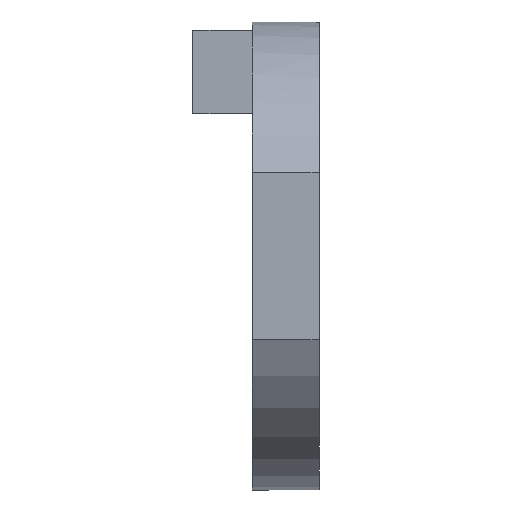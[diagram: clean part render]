
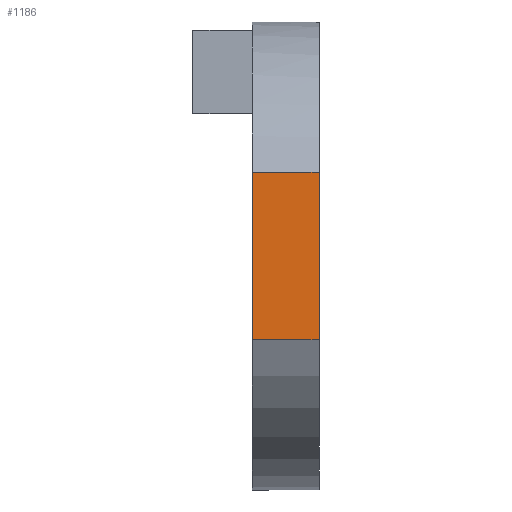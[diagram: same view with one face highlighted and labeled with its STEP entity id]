
A CAD part, left-side view. The second image highlights one B-rep face of the part: STEP entity #1186.
In plain terms, the highlighted planar face has unit normal (-1, 0, 0).
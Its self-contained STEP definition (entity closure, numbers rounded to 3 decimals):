
#45 = PLANE('',#46);
#46 = AXIS2_PLACEMENT_3D('',#47,#48,#49);
#47 = CARTESIAN_POINT('',(20.,-71.,43.));
#48 = DIRECTION('',(0.,-1.,0.));
#49 = DIRECTION('',(1.,0.,0.));
#72 = PLANE('',#73);
#73 = AXIS2_PLACEMENT_3D('',#74,#75,#76);
#74 = CARTESIAN_POINT('',(-6.,-75.,38.));
#75 = DIRECTION('',(0.,0.,1.));
#76 = DIRECTION('',(1.,0.,0.));
#100 = PLANE('',#101);
#101 = AXIS2_PLACEMENT_3D('',#102,#103,#104);
#102 = CARTESIAN_POINT('',(20.,-75.,43.));
#103 = DIRECTION('',(0.,-1.,0.));
#104 = DIRECTION('',(1.,0.,0.));
#144 = VERTEX_POINT('',#145);
#145 = CARTESIAN_POINT('',(-6.,-71.,48.));
#161 = PLANE('',#162);
#162 = AXIS2_PLACEMENT_3D('',#163,#164,#165);
#163 = CARTESIAN_POINT('',(-6.,-75.,48.));
#164 = DIRECTION('',(0.,0.,1.));
#165 = DIRECTION('',(1.,0.,0.));
#173 = EDGE_CURVE('',#174,#144,#176,.T.);
#174 = VERTEX_POINT('',#175);
#175 = CARTESIAN_POINT('',(-6.,-71.,38.));
#176 = SURFACE_CURVE('',#177,(#181,#188),.PCURVE_S1.);
#177 = LINE('',#178,#179);
#178 = CARTESIAN_POINT('',(-6.,-71.,38.));
#179 = VECTOR('',#180,1.);
#180 = DIRECTION('',(0.,0.,1.));
#181 = PCURVE('',#45,#182);
#182 = DEFINITIONAL_REPRESENTATION('',(#183),#187);
#183 = LINE('',#184,#185);
#184 = CARTESIAN_POINT('',(-26.,-5.));
#185 = VECTOR('',#186,1.);
#186 = DIRECTION('',(0.,1.));
#187 = ( GEOMETRIC_REPRESENTATION_CONTEXT(2) 
PARAMETRIC_REPRESENTATION_CONTEXT() REPRESENTATION_CONTEXT('2D SPACE',''
  ) );
#188 = PCURVE('',#189,#194);
#189 = PLANE('',#190);
#190 = AXIS2_PLACEMENT_3D('',#191,#192,#193);
#191 = CARTESIAN_POINT('',(-6.,-75.,38.));
#192 = DIRECTION('',(1.,0.,0.));
#193 = DIRECTION('',(0.,0.,1.));
#194 = DEFINITIONAL_REPRESENTATION('',(#195),#199);
#195 = LINE('',#196,#197);
#196 = CARTESIAN_POINT('',(0.,-4.));
#197 = VECTOR('',#198,1.);
#198 = DIRECTION('',(1.,0.));
#199 = ( GEOMETRIC_REPRESENTATION_CONTEXT(2) 
PARAMETRIC_REPRESENTATION_CONTEXT() REPRESENTATION_CONTEXT('2D SPACE',''
  ) );
#784 = VERTEX_POINT('',#785);
#785 = CARTESIAN_POINT('',(-6.,-75.,48.));
#806 = EDGE_CURVE('',#807,#784,#809,.T.);
#807 = VERTEX_POINT('',#808);
#808 = CARTESIAN_POINT('',(-6.,-75.,38.));
#809 = SURFACE_CURVE('',#810,(#814,#821),.PCURVE_S1.);
#810 = LINE('',#811,#812);
#811 = CARTESIAN_POINT('',(-6.,-75.,38.));
#812 = VECTOR('',#813,1.);
#813 = DIRECTION('',(0.,0.,1.));
#814 = PCURVE('',#100,#815);
#815 = DEFINITIONAL_REPRESENTATION('',(#816),#820);
#816 = LINE('',#817,#818);
#817 = CARTESIAN_POINT('',(-26.,-5.));
#818 = VECTOR('',#819,1.);
#819 = DIRECTION('',(0.,1.));
#820 = ( GEOMETRIC_REPRESENTATION_CONTEXT(2) 
PARAMETRIC_REPRESENTATION_CONTEXT() REPRESENTATION_CONTEXT('2D SPACE',''
  ) );
#821 = PCURVE('',#189,#822);
#822 = DEFINITIONAL_REPRESENTATION('',(#823),#827);
#823 = LINE('',#824,#825);
#824 = CARTESIAN_POINT('',(0.,0.));
#825 = VECTOR('',#826,1.);
#826 = DIRECTION('',(1.,0.));
#827 = ( GEOMETRIC_REPRESENTATION_CONTEXT(2) 
PARAMETRIC_REPRESENTATION_CONTEXT() REPRESENTATION_CONTEXT('2D SPACE',''
  ) );
#1119 = EDGE_CURVE('',#807,#174,#1120,.T.);
#1120 = SURFACE_CURVE('',#1121,(#1125,#1132),.PCURVE_S1.);
#1121 = LINE('',#1122,#1123);
#1122 = CARTESIAN_POINT('',(-6.,-75.,38.));
#1123 = VECTOR('',#1124,1.);
#1124 = DIRECTION('',(0.,1.,0.));
#1125 = PCURVE('',#72,#1126);
#1126 = DEFINITIONAL_REPRESENTATION('',(#1127),#1131);
#1127 = LINE('',#1128,#1129);
#1128 = CARTESIAN_POINT('',(0.,0.));
#1129 = VECTOR('',#1130,1.);
#1130 = DIRECTION('',(0.,1.));
#1131 = ( GEOMETRIC_REPRESENTATION_CONTEXT(2) 
PARAMETRIC_REPRESENTATION_CONTEXT() REPRESENTATION_CONTEXT('2D SPACE',''
  ) );
#1132 = PCURVE('',#189,#1133);
#1133 = DEFINITIONAL_REPRESENTATION('',(#1134),#1138);
#1134 = LINE('',#1135,#1136);
#1135 = CARTESIAN_POINT('',(0.,0.));
#1136 = VECTOR('',#1137,1.);
#1137 = DIRECTION('',(0.,-1.));
#1138 = ( GEOMETRIC_REPRESENTATION_CONTEXT(2) 
PARAMETRIC_REPRESENTATION_CONTEXT() REPRESENTATION_CONTEXT('2D SPACE',''
  ) );
#1146 = EDGE_CURVE('',#784,#144,#1147,.T.);
#1147 = SURFACE_CURVE('',#1148,(#1152,#1159),.PCURVE_S1.);
#1148 = LINE('',#1149,#1150);
#1149 = CARTESIAN_POINT('',(-6.,-75.,48.));
#1150 = VECTOR('',#1151,1.);
#1151 = DIRECTION('',(0.,1.,0.));
#1152 = PCURVE('',#161,#1153);
#1153 = DEFINITIONAL_REPRESENTATION('',(#1154),#1158);
#1154 = LINE('',#1155,#1156);
#1155 = CARTESIAN_POINT('',(0.,0.));
#1156 = VECTOR('',#1157,1.);
#1157 = DIRECTION('',(0.,1.));
#1158 = ( GEOMETRIC_REPRESENTATION_CONTEXT(2) 
PARAMETRIC_REPRESENTATION_CONTEXT() REPRESENTATION_CONTEXT('2D SPACE',''
  ) );
#1159 = PCURVE('',#189,#1160);
#1160 = DEFINITIONAL_REPRESENTATION('',(#1161),#1165);
#1161 = LINE('',#1162,#1163);
#1162 = CARTESIAN_POINT('',(10.,0.));
#1163 = VECTOR('',#1164,1.);
#1164 = DIRECTION('',(0.,-1.));
#1165 = ( GEOMETRIC_REPRESENTATION_CONTEXT(2) 
PARAMETRIC_REPRESENTATION_CONTEXT() REPRESENTATION_CONTEXT('2D SPACE',''
  ) );
#1186 = ADVANCED_FACE('',(#1187),#189,.F.);
#1187 = FACE_BOUND('',#1188,.F.);
#1188 = EDGE_LOOP('',(#1189,#1190,#1191,#1192));
#1189 = ORIENTED_EDGE('',*,*,#806,.F.);
#1190 = ORIENTED_EDGE('',*,*,#1119,.T.);
#1191 = ORIENTED_EDGE('',*,*,#173,.T.);
#1192 = ORIENTED_EDGE('',*,*,#1146,.F.);
